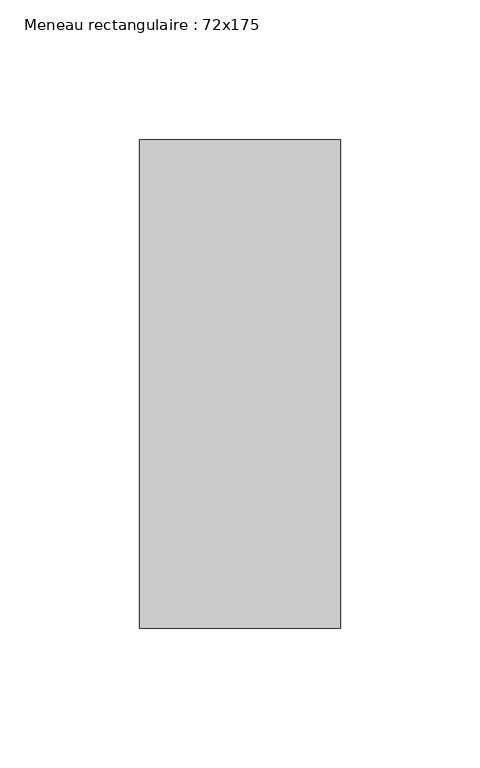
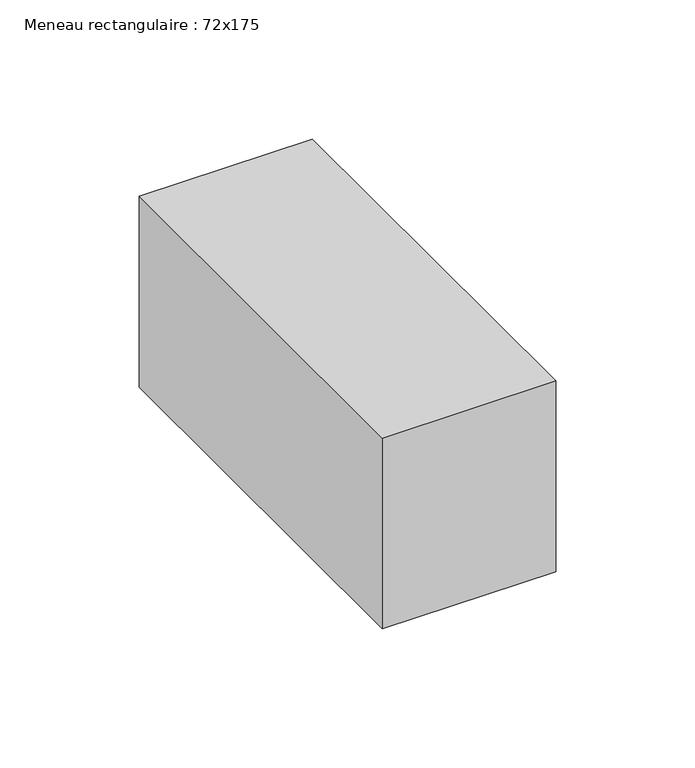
"""IFC4 building model written with IfcOpenShell, lengths in millimetres: member geometry, Meneau rectangulaire : 72x175."""

from ifc_helpers import new_model, si_unit, frame, origin, place, context, project, spatial, polyline, outline, extrude, source, transform, mapped, element, save


def meneau_rectangulaire_72x175_650fc572(model_context):
    return source(origin(), model_context, "Body", "SweptSolid", [
        extrude(outline(polyline([(36.0, 87.5), (36.0, -87.5), (-36.0, -87.5), (-36.0, 87.5), (36.0, 87.5)])), frame((0.0, 0.0, -83.8416167), z_axis=(0.0, 0.0, 1.0), x_axis=(1.0, 0.0, 0.0)), (0.0, 0.0, 1.0), 83.8416167),
    ])


if __name__ == "__main__":
    model = new_model("IFC4")
    model_context = context("Model", 3, world=origin())
    ifc_project = project(units=[si_unit("LENGTHUNIT", "METRE", prefix="MILLI")], contexts=[model_context])
    site = spatial("IfcSite", under=ifc_project)
    building = spatial("IfcBuilding", under=site)
    placement = place(None, origin())
    meneau_rectangulaire_72x175_shape = meneau_rectangulaire_72x175_650fc572(model_context)
    element("IfcMember", 1, ObjectType="Meneau rectangulaire : 72x175", at=placement, inside=building, context=model_context, shape_type="MappedRepresentation", body=[
        mapped(meneau_rectangulaire_72x175_shape, transform((0.0, 0.0, 0.0), x_axis=(1.0, 0.0, 0.0), y_axis=(0.0, 1.0, 0.0), z_axis=(0.0, 0.0, 1.0))),
    ])
    save(model, "model.ifc")
